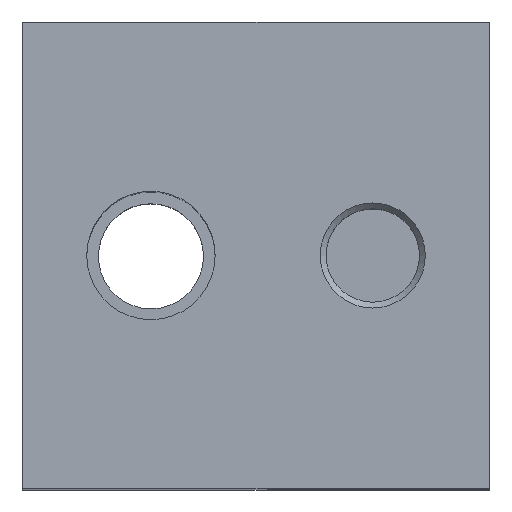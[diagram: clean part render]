
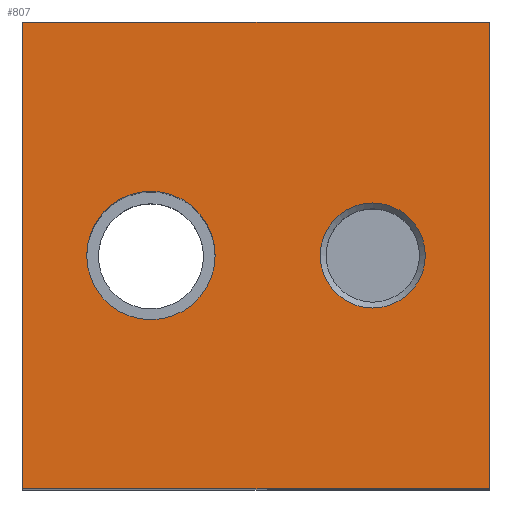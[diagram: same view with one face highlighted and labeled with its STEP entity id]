
A CAD part, top view. The second image highlights one B-rep face of the part: STEP entity #807.
In plain terms, the highlighted planar face has unit normal (0, 0, 1) as drawn and (0, 1, 0) by its records, which use the part's own axes.
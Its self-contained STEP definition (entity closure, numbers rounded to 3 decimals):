
#61=FACE_BOUND('',#166,.T.);
#62=FACE_BOUND('',#167,.T.);
#77=PLANE('',#962);
#114=FACE_OUTER_BOUND('',#165,.T.);
#165=EDGE_LOOP('',(#651,#652,#653,#654));
#166=EDGE_LOOP('',(#655,#656));
#167=EDGE_LOOP('',(#657));
#220=LINE('',#1381,#278);
#221=LINE('',#1383,#279);
#222=LINE('',#1385,#280);
#223=LINE('',#1386,#281);
#278=VECTOR('',#1139,10.);
#279=VECTOR('',#1140,10.);
#280=VECTOR('',#1141,10.);
#281=VECTOR('',#1142,10.);
#335=CIRCLE('',#953,5.5);
#336=CIRCLE('',#954,5.5);
#338=CIRCLE('',#957,4.5);
#392=VERTEX_POINT('',#1359);
#393=VERTEX_POINT('',#1360);
#395=VERTEX_POINT('',#1367);
#399=VERTEX_POINT('',#1379);
#400=VERTEX_POINT('',#1380);
#401=VERTEX_POINT('',#1382);
#402=VERTEX_POINT('',#1384);
#484=EDGE_CURVE('',#392,#393,#335,.T.);
#485=EDGE_CURVE('',#393,#392,#336,.T.);
#488=EDGE_CURVE('',#395,#395,#338,.T.);
#494=EDGE_CURVE('',#399,#400,#220,.T.);
#495=EDGE_CURVE('',#400,#401,#221,.T.);
#496=EDGE_CURVE('',#401,#402,#222,.T.);
#497=EDGE_CURVE('',#399,#402,#223,.T.);
#651=ORIENTED_EDGE('',*,*,#494,.T.);
#652=ORIENTED_EDGE('',*,*,#495,.T.);
#653=ORIENTED_EDGE('',*,*,#496,.T.);
#654=ORIENTED_EDGE('',*,*,#497,.F.);
#655=ORIENTED_EDGE('',*,*,#484,.T.);
#656=ORIENTED_EDGE('',*,*,#485,.T.);
#657=ORIENTED_EDGE('',*,*,#488,.F.);
#807=ADVANCED_FACE('',(#114,#61,#62),#77,.T.);
#953=AXIS2_PLACEMENT_3D('',#1361,#1116,#1117);
#954=AXIS2_PLACEMENT_3D('',#1362,#1118,#1119);
#957=AXIS2_PLACEMENT_3D('',#1368,#1125,#1126);
#962=AXIS2_PLACEMENT_3D('',#1378,#1137,#1138);
#1116=DIRECTION('center_axis',(0.,-1.,0.));
#1117=DIRECTION('ref_axis',(1.,0.,0.));
#1118=DIRECTION('center_axis',(0.,-1.,0.));
#1119=DIRECTION('ref_axis',(1.,0.,0.));
#1125=DIRECTION('center_axis',(0.,1.,0.));
#1126=DIRECTION('ref_axis',(-1.,0.,0.));
#1137=DIRECTION('center_axis',(0.,1.,0.));
#1138=DIRECTION('ref_axis',(0.,0.,1.));
#1139=DIRECTION('',(1.,0.,0.));
#1140=DIRECTION('',(0.,0.,-1.));
#1141=DIRECTION('',(-1.,0.,0.));
#1142=DIRECTION('',(0.,0.,-1.));
#1359=CARTESIAN_POINT('',(-4.5,40.,0.));
#1360=CARTESIAN_POINT('',(-15.5,40.,0.));
#1361=CARTESIAN_POINT('Origin',(-10.,40.,0.));
#1362=CARTESIAN_POINT('Origin',(-10.,40.,0.));
#1367=CARTESIAN_POINT('',(13.5,40.,0.));
#1368=CARTESIAN_POINT('Origin',(9.,40.,0.));
#1378=CARTESIAN_POINT('Origin',(-21.,40.,0.));
#1379=CARTESIAN_POINT('',(-21.,40.,20.));
#1380=CARTESIAN_POINT('',(19.,40.,20.));
#1381=CARTESIAN_POINT('',(-21.,40.,20.));
#1382=CARTESIAN_POINT('',(19.,40.,-20.));
#1383=CARTESIAN_POINT('',(19.,40.,0.));
#1384=CARTESIAN_POINT('',(-21.,40.,-20.));
#1385=CARTESIAN_POINT('',(-21.,40.,-20.));
#1386=CARTESIAN_POINT('',(-21.,40.,0.));
